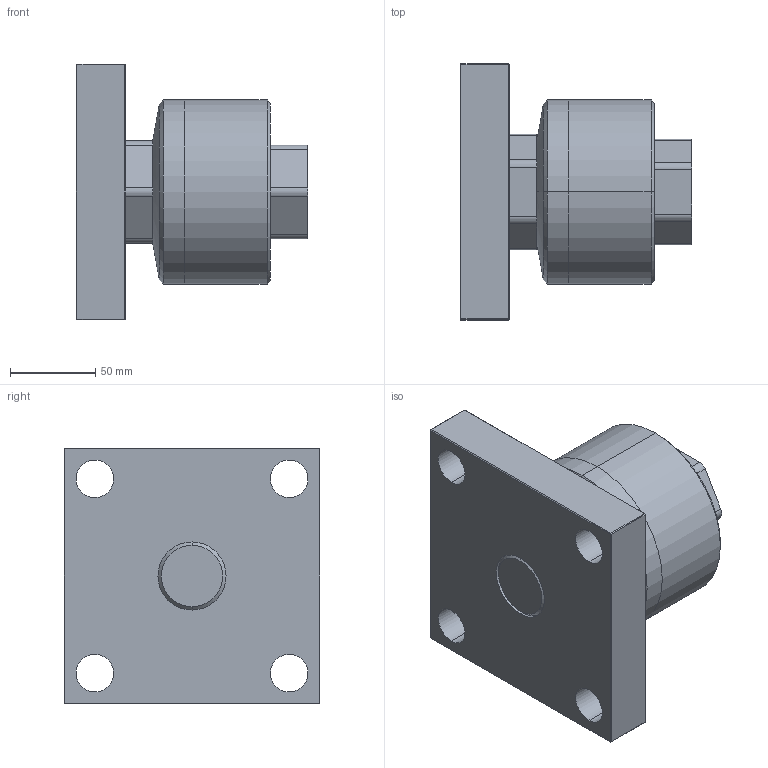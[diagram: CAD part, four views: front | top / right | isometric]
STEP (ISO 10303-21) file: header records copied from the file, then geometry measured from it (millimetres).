
FILE_DESCRIPTION (( 'STEP AP203' ), '1' );
FILE_NAME ('FCM40-1.5-F.STEP', '2016-04-14T02:01:33', ( '' ), ( '' ), 'SwSTEP 2.0', 'SolidWorks 2014', '' );
FILE_SCHEMA (( 'CONFIG_CONTROL_DESIGN' ));
Length unit declared in the file: millimetre
Products named in the file (3): FCM40-1.5(F); FCM40-1.5-F; FCM40-F
Assembly tree (2 placements, depth 2):
  FCM40-1.5-F
    FCM40-1.5(F)
    FCM40-F
Bounding box: 136 x 150 x 150 mm (x, y, z)
Volume: 1298477.8 mm3; surface area: 122473.7 mm2
Topology: 2 solids, 2 shells, 87 faces, 198 edges, 118 vertices
Faces by surface type: plane 49, cylinder 30, cone 8
Entity records: 2731 total; most frequent: DIRECTION 452, CARTESIAN_POINT 408, ORIENTED_EDGE 396, EDGE_CURVE 198, AXIS2_PLACEMENT_3D 162, VECTOR 128, LINE 128, VERTEX_POINT 118
